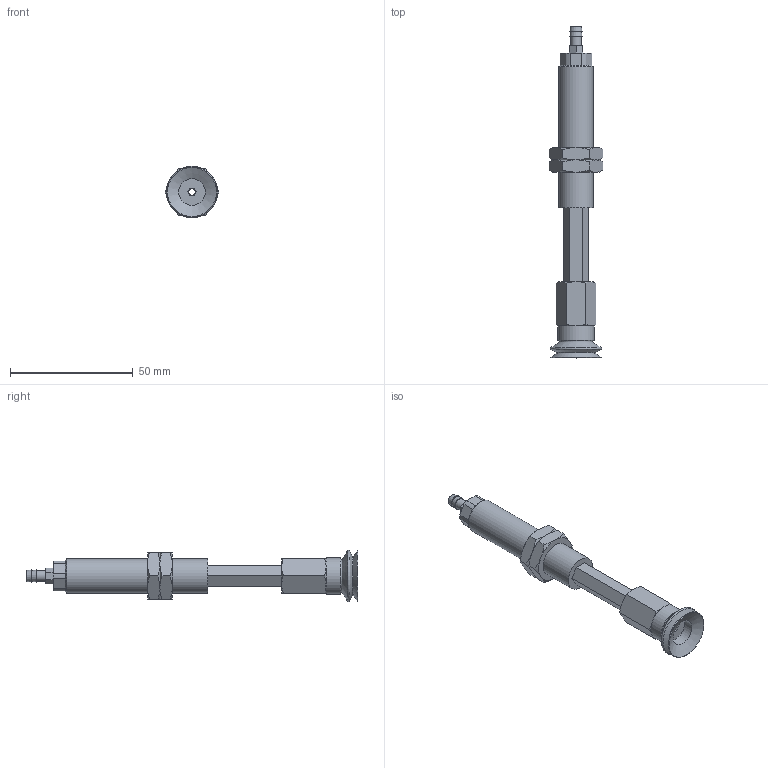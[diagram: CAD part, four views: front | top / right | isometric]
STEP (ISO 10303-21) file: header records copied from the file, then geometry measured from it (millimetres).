
FILE_DESCRIPTION(('STEP AP203'),'1');
FILE_NAME('-T.stp','2025-08-27T07:00:06',(' '),(' '),'Spatial InterOp 3D',' ',' ');
FILE_SCHEMA(('CONFIG_CONTROL_DESIGN'));
Length unit declared in the file: millimetre
Products named in the file (8): BNABPJTH-20-30-※-T; ADAPTER; NAPBTH-20-30-MBODY; Adapter-20-NAPJ; NAPJH-20-30-NUT; NAPJTH-20-30-FBODY; BPJG-20-※; T
Assembly tree (8 placements, depth 2):
  BNABPJTH-20-30-※-T
    ADAPTER
    NAPBTH-20-30-MBODY
    Adapter-20-NAPJ
    NAPJH-20-30-NUT  x2
    NAPJTH-20-30-FBODY
    BPJG-20-※
    T
Bounding box: 21.94 x 135 x 21 mm (x, y, z)
Volume: 17443.6 mm3; surface area: 14043.8 mm2
Topology: 8 solids, 8 shells, 155 faces, 337 edges, 208 vertices
Faces by surface type: plane 74, cone 52, cylinder 22, torus 7
Full cylindrical faces by diameter (mm): 2.5 x1, 3 x3, 4.134 x2, 4.3 x1, 4.6 x1, 5 x2, 10.8 x1, 11 x1, 13.188 x2, 14 x1, 15 x1
Entity records: 4006 total; most frequent: CARTESIAN_POINT 895, DIRECTION 568, ORIENTED_EDGE 490, EDGE_CURVE 245, AXIS2_PLACEMENT_3D 230, EDGE_LOOP 192, VERTEX_POINT 173, FACE_OUTER_BOUND 154
